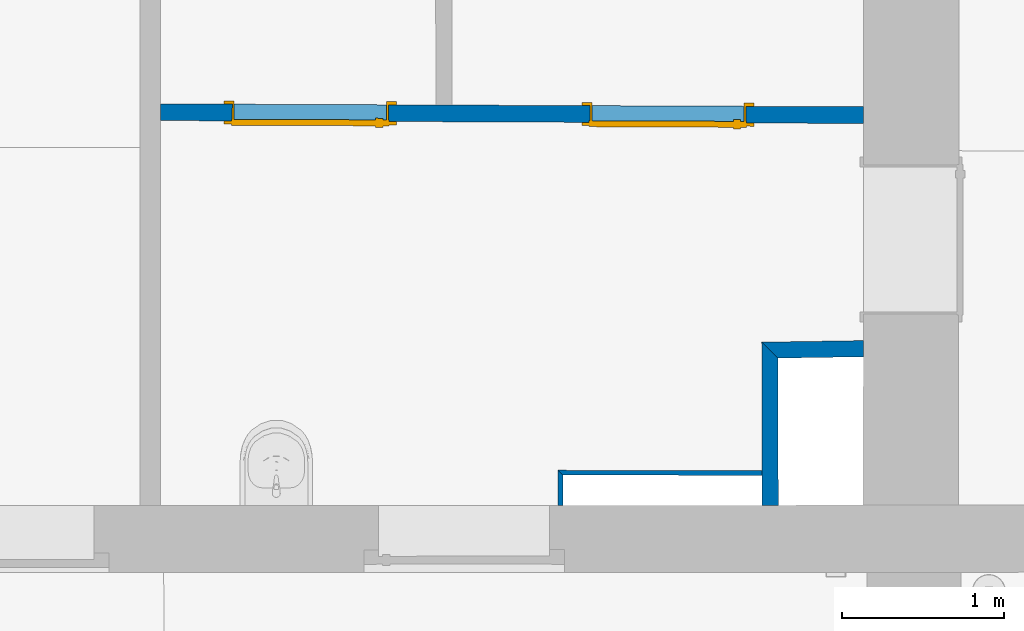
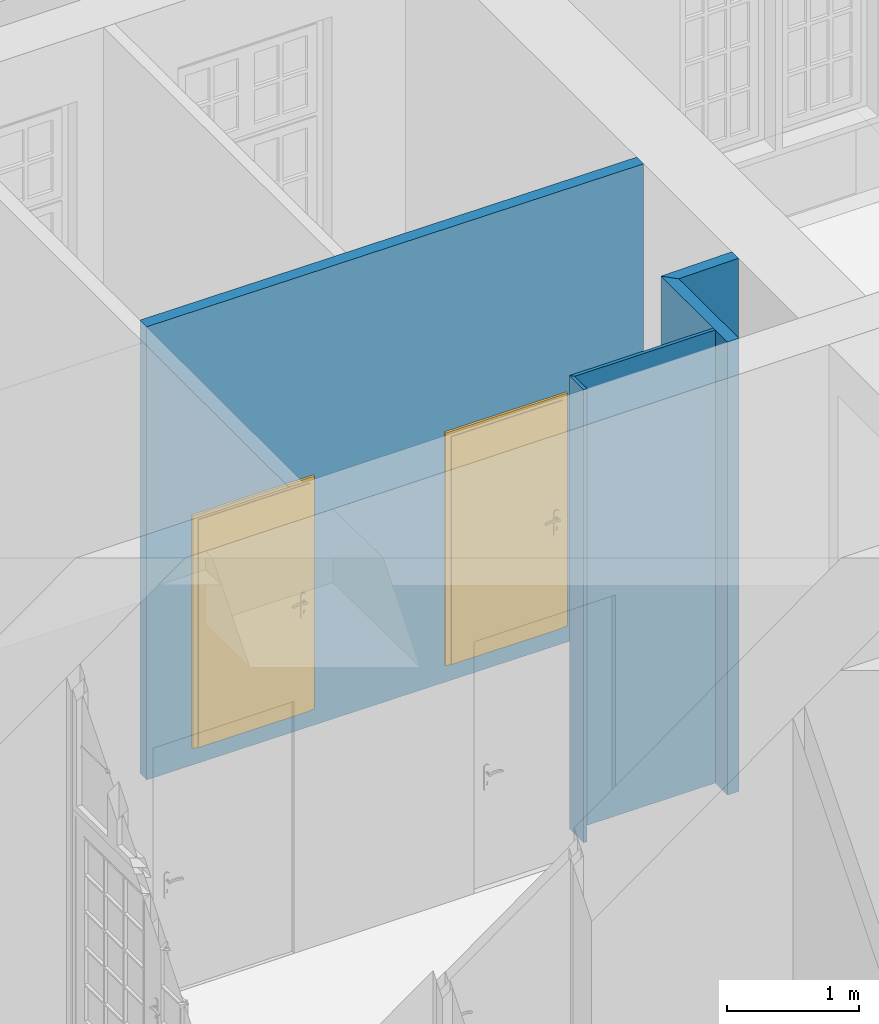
# One storey, part 23 of 90: 5 walls, 2 doors, 2 openings.
"""IFC2X3 building model written with IfcOpenShell, lengths in metres."""

from ifc_helpers import new_model, entity, si_unit, converted_unit, derived_unit, money_unit, direction, frame, origin_with_axes, origin_2d_with_axis, place, context, subcontext, project, spatial, polyline, rectangle, outline, extrude, faceted_brep, source, transform, mapped, material, layer, layer_set, layer_usage, type_object, element, fill, save


model = new_model("IFC2X3")

# Units and contexts
model_context = context("Model", 3, precision=1e-05, world=origin_with_axes(), true_north=direction((0.0, 1.0)))
body_context = subcontext(model_context, "Body", "Model", "MODEL_VIEW")
ifc_project = project(units=[si_unit("LENGTHUNIT", "METRE"), si_unit("AREAUNIT", "SQUARE_METRE"), si_unit("VOLUMEUNIT", "CUBIC_METRE"), converted_unit("PLANEANGLEUNIT", "DEGREE", entity("IfcPlaneAngleMeasure", 0.0174532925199), si_unit("PLANEANGLEUNIT", "RADIAN"), dimensions=[0, 0, 0, 0, 0, 0, 0]), money_unit("EUR"), converted_unit("TIMEUNIT", "Year", entity("IfcTimeMeasure", 31556926.0), si_unit("TIMEUNIT", "SECOND"), dimensions=[0, 0, 1, 0, 0, 0, 0]), si_unit("MASSUNIT", "GRAM", prefix="KILO"), si_unit("THERMODYNAMICTEMPERATUREUNIT", "DEGREE_CELSIUS"), si_unit("LUMINOUSINTENSITYUNIT", "LUMEN"), si_unit("ENERGYUNIT", "JOULE", prefix="MEGA"), derived_unit("THERMALCONDUCTANCEUNIT", [(si_unit("POWERUNIT", "WATT"), 1), (si_unit("LENGTHUNIT", "METRE"), -1), (si_unit("THERMODYNAMICTEMPERATUREUNIT", "KELVIN"), -1)]), derived_unit("SPECIFICHEATCAPACITYUNIT", [(si_unit("ENERGYUNIT", "JOULE"), 1), (si_unit("MASSUNIT", "GRAM", prefix="KILO"), -1), (si_unit("THERMODYNAMICTEMPERATUREUNIT", "KELVIN"), -1)]), derived_unit("MASSDENSITYUNIT", [(si_unit("MASSUNIT", "GRAM", prefix="KILO"), 1), (si_unit("VOLUMEUNIT", "CUBIC_METRE"), -1)])], contexts=[model_context])

# Site, building, storey
site_placement = place(None, origin_with_axes())
site = spatial("IfcSite", under=ifc_project, at=site_placement, Name="Gelände", CompositionType="ELEMENT")
building_placement = place(site_placement, origin_with_axes())
building = spatial("IfcBuilding", under=site, at=building_placement, Name="Gebäude", CompositionType="ELEMENT")
storey_placement = place(building_placement, frame((0.0, 0.0, 3.7), z_axis=(0.0, 0.0, 1.0), x_axis=(1.0, 0.0, 0.0)))
storey = spatial("IfcBuildingStorey", under=building, at=storey_placement, Name="1.OBERGESCHOSS", CompositionType="ELEMENT", Elevation=3.7)

# Walls
ifc_material_1 = material(Name="05_ALLGEMEIN - TRAGENDE BAUTEILE")
ifc_layer_1 = layer(ifc_material_1, 0.1, ventilated="UNKNOWN")
ifc_layer_set_1 = layer_set([ifc_layer_1], Name="05_ALLGEMEIN - TRAGENDE BAUTEILE 0.1")
ifc_layer_usage_1 = layer_usage(ifc_layer_set_1, "AXIS2", "NEGATIVE", 0.1)
wall_type_1 = type_object("IfcWallType", Name="05_ALLGEMEIN - TRAGENDE BAUTEILE 100", PredefinedType="ELEMENTEDWALL")
wall_1_placement = place(storey_placement, frame((3.5553239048, 20.7202840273, -0.1), z_axis=(0.0, 0.0, 1.0), x_axis=(-0.99987302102, -0.0159355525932, 0.0)))
element("IfcWallStandardCase", 1, at=wall_1_placement, inside=storey, type_object=wall_type_1, material=ifc_layer_usage_1, Name="Wand-038", ObjectType="ELEMENTEDWALL", context=body_context, shape_type="SweptSolid", body=[
    extrude(outline(polyline([(0.590081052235, 0.0), (1.21786621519, 0.0), (1.11921150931, 0.1), (0.591738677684, 0.1), (0.590081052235, 0.0)])), origin_with_axes(), (0.0, 0.0, 1.0), 4.2),
])
ifc_layer_usage_2 = layer_usage(ifc_layer_set_1, "AXIS2", "NEGATIVE", 0.0)
wall_2_placement = place(storey_placement, frame((2.34101586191, 19.2782309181, -0.1), z_axis=(0.0, 0.0, 1.0), x_axis=(-0.00239238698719, 0.999997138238, 0.0)))
element("IfcWallStandardCase", 2, at=wall_2_placement, inside=storey, type_object=wall_type_1, material=ifc_layer_usage_2, Name="Wand-038", ObjectType="ELEMENTEDWALL", context=body_context, shape_type="SweptSolid", body=[
    extrude(outline(polyline([(0.414406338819, -0.1), (1.3239951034, -0.1), (1.42264980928, 0.0), (0.414616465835, 0.0), (0.414406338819, -0.1)])), origin_with_axes(), (0.0, 0.0, 1.0), 4.2),
])
ifc_material_2 = material(Name="43_Gipskarton")
ifc_layer_2 = layer(ifc_material_2, 0.03, ventilated="UNKNOWN")
ifc_layer_set_2 = layer_set([ifc_layer_2], Name="43_Gipskarton 0.03")
ifc_layer_usage_3 = layer_usage(ifc_layer_set_2, "AXIS2", "NEGATIVE", 0.03)
wall_type_2 = type_object("IfcWallType", Name="43_Gipskarton 30", PredefinedType="ELEMENTEDWALL")
wall_3_placement = place(storey_placement, frame((2.33950992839, 19.9076981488, -0.1), z_axis=(0.0, 0.0, 1.0), x_axis=(-0.999999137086, 0.00131370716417, 0.0)))
element("IfcWallStandardCase", 3, at=wall_3_placement, inside=storey, type_object=wall_type_2, material=ifc_layer_usage_3, Name="Wand-041", ObjectType="ELEMENTEDWALL", context=body_context, shape_type="SweptSolid", body=[
    extrude(outline(polyline([(0.0, 0.0), (1.26097218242, 0.0), (1.23092399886, 0.03), (-0.000111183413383, 0.03), (0.0, 0.0)])), origin_with_axes(), (0.0, 0.0, 1.0), 4.2),
])
ifc_layer_usage_4 = layer_usage(ifc_layer_set_2, "AXIS2", "NEGATIVE", 0.03)
wall_4_placement = place(storey_placement, frame((1.07853883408, 19.909354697, -0.1), z_axis=(0.0, 0.0, 1.0), x_axis=(0.000291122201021, -0.999999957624, 0.0)))
element("IfcWallStandardCase", 4, at=wall_4_placement, inside=storey, type_object=wall_type_2, material=ifc_layer_usage_4, Name="Wand-042", ObjectType="ELEMENTEDWALL", context=body_context, shape_type="SweptSolid", body=[
    extrude(outline(polyline([(0.0, 0.0), (0.21687573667, 0.0), (0.21687573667, 0.03), (0.030048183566, 0.03), (0.0, 0.0)])), origin_with_axes(), (0.0, 0.0, 1.0), 4.2),
])

# Wall, openings, doors
ifc_layer_3 = layer(ifc_material_2, 0.103444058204, ventilated="UNKNOWN")
ifc_layer_set_3 = layer_set([ifc_layer_3], Name="43_Gipskarton 0.103444")
ifc_layer_usage_5 = layer_usage(ifc_layer_set_3, "AXIS2", "NEGATIVE", 0.103444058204)
wall_type_3 = type_object("IfcWallType", Name="43_Gipskarton 103", PredefinedType="ELEMENTEDWALL")
wall_5_placement = place(storey_placement, frame((-1.37902214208, 22.0709808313, -0.1), z_axis=(0.0, 0.0, 1.0), x_axis=(0.999991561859, -0.00410806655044, 0.0)))
wall_5 = element("IfcWallStandardCase", 5, at=wall_5_placement, inside=storey, type_object=wall_type_3, material=ifc_layer_usage_5, Name="Wand-040", ObjectType="ELEMENTEDWALL", context=body_context, shape_type="SweptSolid", body=[
    extrude(outline(polyline([(0.0, 0.0), (4.34523362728, 0.0), (4.34487471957, 0.103444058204), (-0.00044787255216, 0.103444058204), (0.0, 0.0)])), origin_with_axes(), (0.0, 0.0, 1.0), 4.2),
])
opening_1_placement = place(wall_5_placement, frame((0.925542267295, 0.0, 0.165365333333), z_axis=(0.0, 0.0, 1.0), x_axis=(1.0, 0.0, 0.0)))
opening_1 = element("IfcOpeningElement", 6, at=opening_1_placement, cuts=wall_5, Name="Tür-022", context=body_context, shape_type="SweptSolid", body=[
    extrude(rectangle(XDim=0.965501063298, YDim=2.106896, at=origin_2d_with_axis()), frame((0.0, -0.103444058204, 1.053448), z_axis=(0.0, 1.0, 0.0), x_axis=(-1.0, 0.0, 0.0)), (0.0, 0.0, 1.0), 0.310332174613),
])
opening_2_placement = place(wall_5_placement, frame((3.13668780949, 0.0, 0.165365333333), z_axis=(0.0, 0.0, 1.0), x_axis=(1.0, 0.0, 0.0)))
opening_2 = element("IfcOpeningElement", 7, at=opening_2_placement, cuts=wall_5, Name="Tür-022", context=body_context, shape_type="SweptSolid", body=[
    extrude(rectangle(XDim=0.965501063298, YDim=2.106896, at=origin_2d_with_axis()), frame((0.0, -0.103444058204, 1.053448), z_axis=(0.0, 1.0, 0.0), x_axis=(-1.0, 0.0, 0.0)), (0.0, 0.0, 1.0), 0.310332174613),
])
door_style = type_object("IfcDoorStyle", Name="Blockrahmentür 1-Fl 25", ConstructionType="NOTDEFINED", OperationType="SINGLE_SWING_RIGHT", ParameterTakesPrecedence=False, Sizeable=False)
shared_shape = source(origin_with_axes(), body_context, "Body", "Brep", [
    faceted_brep([(0.482750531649, -0.163444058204, 0.0), (0.482750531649, -0.05, 0.0), (0.482750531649, -0.05, 2.106896), (0.482750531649, -0.163444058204, 2.106896), (0.470750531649, -0.163444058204, 0.0), (0.470750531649, -0.05, 0.0), (0.470750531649, -0.05, 2.094896), (0.1161, -0.05, 2.094896), (0.0001, -0.05, 2.094896), (-0.470750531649, -0.05, 2.094896), (-0.470750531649, -0.05, 0.0), (-0.482750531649, -0.05, 0.0), (-0.482750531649, -0.05, 2.106896), (-0.482750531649, -0.163444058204, 2.106896), (-0.482750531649, -0.163444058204, 0.0), (-0.470750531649, -0.163444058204, 0.0), (-0.470750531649, -0.163444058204, 2.094896), (0.0001, -0.163444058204, 2.094896), (0.1161, -0.163444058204, 2.094896), (0.470750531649, -0.163444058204, 2.094896)], [[[0, 1, 2, 3]], [[4, 5, 1, 0]], [[1, 5, 6, 7, 8, 9, 10, 11, 12, 2]], [[3, 2, 12, 13]], [[0, 3, 13, 14, 15, 16, 17, 18, 19, 4]], [[19, 6, 5, 4]], [[18, 7, 6, 19]], [[17, 8, 7, 18]], [[16, 9, 8, 17]], [[15, 10, 9, 16]], [[14, 11, 10, 15]], [[13, 12, 11, 14]]]),
    faceted_brep([(0.482750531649, -0.05, 0.0), (0.482750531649, -0.02, 0.0), (0.486750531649, -0.02, 0.0), (0.486750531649, -0.05, 0.0), (0.482750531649, -0.05, 2.106896), (0.482750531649, -0.02, 2.106896), (-0.482750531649, -0.02, 2.106896), (-0.482750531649, -0.02, 0.0), (-0.486750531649, -0.02, 0.0), (-0.486750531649, -0.02, 2.110896), (0.0161, -0.02, 2.110896), (0.1001, -0.02, 2.110896), (0.486750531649, -0.02, 2.110896), (0.486750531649, -0.05, 2.110896), (0.1001, -0.05, 2.110896), (0.0161, -0.05, 2.110896), (-0.486750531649, -0.05, 2.110896), (-0.486750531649, -0.05, 0.0), (-0.482750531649, -0.05, 0.0), (-0.482750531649, -0.05, 2.106896)], [[[0, 1, 2, 3]], [[4, 5, 1, 0]], [[1, 5, 6, 7, 8, 9, 10, 11, 12, 2]], [[3, 2, 12, 13]], [[0, 3, 13, 14, 15, 16, 17, 18, 19, 4]], [[19, 6, 5, 4]], [[18, 7, 6, 19]], [[17, 8, 7, 18]], [[16, 9, 8, 17]], [[15, 10, 9, 16]], [[14, 11, 10, 15]], [[13, 12, 11, 14]]]),
    faceted_brep([(0.532750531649, -0.163444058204, 0.0), (0.532750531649, -0.143444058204, 0.0), (0.532750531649, -0.143444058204, 2.156896), (0.532750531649, -0.163444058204, 2.156896), (0.482750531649, -0.163444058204, 0.0), (0.482750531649, -0.143444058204, 0.0), (0.482750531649, -0.143444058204, 2.106896), (-0.482750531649, -0.143444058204, 2.106896), (-0.482750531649, -0.143444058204, 0.0), (-0.532750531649, -0.143444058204, 0.0), (-0.532750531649, -0.143444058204, 2.156896), (-0.532750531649, -0.163444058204, 2.156896), (-0.532750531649, -0.163444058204, 0.0), (-0.482750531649, -0.163444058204, 0.0), (-0.482750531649, -0.163444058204, 2.106896), (0.482750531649, -0.163444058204, 2.106896)], [[[0, 1, 2, 3]], [[4, 5, 1, 0]], [[1, 5, 6, 7, 8, 9, 10, 2]], [[3, 2, 10, 11]], [[0, 3, 11, 12, 13, 14, 15, 4]], [[15, 6, 5, 4]], [[14, 7, 6, 15]], [[13, 8, 7, 14]], [[12, 9, 8, 13]], [[11, 10, 9, 12]]]),
    faceted_brep([(0.532750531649, -0.04, 0.0), (0.532750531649, -0.02, 0.0), (0.532750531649, -0.02, 2.156896), (0.532750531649, -0.04, 2.156896), (0.482750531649, -0.04, 0.0), (0.482750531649, -0.02, 0.0), (0.482750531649, -0.02, 2.106896), (-0.482750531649, -0.02, 2.106896), (-0.482750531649, -0.02, 0.0), (-0.532750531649, -0.02, 0.0), (-0.532750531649, -0.02, 2.156896), (-0.532750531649, -0.04, 2.156896), (-0.532750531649, -0.04, 0.0), (-0.482750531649, -0.04, 0.0), (-0.482750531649, -0.04, 2.106896), (0.482750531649, -0.04, 2.106896)], [[[0, 1, 2, 3]], [[4, 5, 1, 0]], [[1, 5, 6, 7, 8, 9, 10, 2]], [[3, 2, 10, 11]], [[0, 3, 11, 12, 13, 14, 15, 4]], [[15, 6, 5, 4]], [[14, 7, 6, 15]], [[13, 8, 7, 14]], [[12, 9, 8, 13]], [[11, 10, 9, 12]]]),
    faceted_brep([(0.486750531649, -0.013, 0.0), (-0.486750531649, -0.013, 0.0), (-0.486750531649, -0.013, 2.110896), (0.486750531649, -0.013, 2.110896), (0.486750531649, -0.05, 0.0), (-0.486750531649, -0.05, 0.0), (-0.486750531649, -0.05, 2.110896), (0.486750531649, -0.05, 2.110896)], [[[0, 1, 2, 3]], [[1, 0, 4, 5]], [[2, 1, 5, 6]], [[3, 2, 6, 7]], [[0, 3, 7, 4]], [[5, 4, 7, 6]]]),
    faceted_brep([(-0.431452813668, -0.09, 1.05647213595), (-0.426750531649, -0.09, 1.058), (-0.426750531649, -0.07, 1.058), (-0.431452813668, -0.07, 1.05647213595), (-0.43435898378, -0.09, 1.05247213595), (-0.43435898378, -0.09, 1.04752786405), (-0.431452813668, -0.09, 1.04352786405), (-0.426750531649, -0.09, 1.042), (-0.422048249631, -0.09, 1.04352786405), (-0.419142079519, -0.09, 1.04752786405), (-0.419142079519, -0.09, 1.05247213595), (-0.422048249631, -0.09, 1.05647213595), (-0.422048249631, -0.07, 1.05647213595), (-0.426750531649, -0.068, 1.06), (-0.432628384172, -0.068, 1.05809016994), (-0.43435898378, -0.07, 1.05247213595), (-0.43435898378, -0.07, 1.04752786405), (-0.431452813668, -0.07, 1.04352786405), (-0.426750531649, -0.07, 1.042), (-0.422048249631, -0.07, 1.04352786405), (-0.419142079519, -0.07, 1.04752786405), (-0.419142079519, -0.07, 1.05247213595), (-0.420872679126, -0.068, 1.05809016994), (-0.426750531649, -0.06, 1.06), (-0.432628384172, -0.06, 1.05809016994), (-0.436261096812, -0.068, 1.05309016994), (-0.436261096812, -0.068, 1.04690983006), (-0.432628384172, -0.068, 1.04190983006), (-0.426750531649, -0.068, 1.04), (-0.420872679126, -0.068, 1.04190983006), (-0.417239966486, -0.068, 1.04690983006), (-0.417239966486, -0.068, 1.05309016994), (-0.420872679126, -0.06, 1.05809016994), (-0.417239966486, -0.06, 1.05309016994), (-0.417239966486, -0.06, 1.04690983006), (-0.420872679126, -0.06, 1.04190983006), (-0.426750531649, -0.06, 1.04), (-0.432628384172, -0.06, 1.04190983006), (-0.436261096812, -0.06, 1.04690983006), (-0.436261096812, -0.06, 1.05309016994)], [[[0, 1, 2, 3]], [[1, 0, 4, 5, 6, 7, 8, 9, 10, 11]], [[1, 11, 12, 2]], [[3, 2, 13, 14]], [[4, 0, 3, 15]], [[5, 4, 15, 16]], [[6, 5, 16, 17]], [[7, 6, 17, 18]], [[8, 7, 18, 19]], [[9, 8, 19, 20]], [[10, 9, 20, 21]], [[11, 10, 21, 12]], [[2, 12, 22, 13]], [[14, 13, 23, 24]], [[15, 3, 14, 25]], [[16, 15, 25, 26]], [[17, 16, 26, 27]], [[18, 17, 27, 28]], [[19, 18, 28, 29]], [[20, 19, 29, 30]], [[21, 20, 30, 31]], [[12, 21, 31, 22]], [[13, 22, 32, 23]], [[23, 32, 33, 34, 35, 36, 37, 38, 39, 24]], [[25, 14, 24, 39]], [[26, 25, 39, 38]], [[27, 26, 38, 37]], [[28, 27, 37, 36]], [[29, 28, 36, 35]], [[30, 29, 35, 34]], [[31, 30, 34, 33]], [[22, 31, 33, 32]]]),
    faceted_brep([(-0.414562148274, -0.06, 1.11759695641), (-0.422306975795, -0.06, 1.12195567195), (-0.431194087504, -0.06, 1.12195567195), (-0.438938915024, -0.06, 1.11759695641), (-0.443550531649, -0.06, 1.11), (-0.449250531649, -0.06, 1.11), (-0.449250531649, -0.06, 0.89), (-0.443550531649, -0.06, 0.89), (-0.438938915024, -0.06, 0.882403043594), (-0.431194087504, -0.06, 0.878044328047), (-0.422306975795, -0.06, 0.878044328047), (-0.414562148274, -0.06, 0.882403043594), (-0.409950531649, -0.06, 0.89), (-0.404250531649, -0.06, 0.89), (-0.404250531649, -0.06, 1.11), (-0.409950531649, -0.06, 1.11), (-0.426750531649, -0.06, 0.967425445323), (-0.421375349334, -0.06, 0.965143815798), (-0.419282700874, -0.06, 0.959692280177), (-0.421750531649, -0.06, 0.9544), (-0.421750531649, -0.06, 0.9375), (-0.423214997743, -0.06, 0.933964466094), (-0.426750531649, -0.06, 0.9325), (-0.430286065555, -0.06, 0.933964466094), (-0.431750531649, -0.06, 0.9375), (-0.431750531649, -0.06, 0.9544), (-0.434218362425, -0.06, 0.959692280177), (-0.432125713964, -0.06, 0.965143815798), (-0.414562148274, -0.05, 1.11759695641), (-0.422306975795, -0.05, 1.12195567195), (-0.431194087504, -0.05, 1.12195567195), (-0.438938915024, -0.05, 1.11759695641), (-0.443550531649, -0.05, 1.11), (-0.449250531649, -0.05, 1.11), (-0.449250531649, -0.05, 0.89), (-0.443550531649, -0.05, 0.89), (-0.438938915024, -0.05, 0.882403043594), (-0.431194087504, -0.05, 0.878044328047), (-0.422306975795, -0.05, 0.878044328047), (-0.414562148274, -0.05, 0.882403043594), (-0.409950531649, -0.05, 0.89), (-0.404250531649, -0.05, 0.89), (-0.404250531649, -0.05, 1.11), (-0.409950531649, -0.05, 1.11), (-0.426750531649, -0.05, 0.967425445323), (-0.421375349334, -0.05, 0.965143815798), (-0.419282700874, -0.05, 0.959692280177), (-0.421750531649, -0.05, 0.9544), (-0.421750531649, -0.05, 0.9375), (-0.423214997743, -0.05, 0.933964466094), (-0.426750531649, -0.05, 0.9325), (-0.430286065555, -0.05, 0.933964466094), (-0.431750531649, -0.05, 0.9375), (-0.431750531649, -0.05, 0.9544), (-0.434218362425, -0.05, 0.959692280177), (-0.432125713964, -0.05, 0.965143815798)], [[[0, 1, 2, 3, 4, 5, 6, 7, 8, 9, 10, 11, 12, 13, 14, 15], [16, 17, 18, 19, 20, 21, 22, 23, 24, 25, 26, 27]], [[1, 0, 28, 29]], [[2, 1, 29, 30]], [[3, 2, 30, 31]], [[4, 3, 31, 32]], [[5, 4, 32, 33]], [[6, 5, 33, 34]], [[7, 6, 34, 35]], [[8, 7, 35, 36]], [[9, 8, 36, 37]], [[10, 9, 37, 38]], [[11, 10, 38, 39]], [[12, 11, 39, 40]], [[13, 12, 40, 41]], [[14, 13, 41, 42]], [[15, 14, 42, 43]], [[0, 15, 43, 28]], [[17, 16, 44, 45]], [[18, 17, 45, 46]], [[19, 18, 46, 47]], [[19, 47, 48, 20]], [[20, 48, 49, 21]], [[21, 49, 50, 22]], [[22, 50, 51, 23]], [[23, 51, 52, 24]], [[53, 25, 24, 52]], [[26, 25, 53, 54]], [[27, 26, 54, 55]], [[16, 27, 55, 44]], [[40, 39, 38, 37, 36, 35, 34, 33, 32, 31, 30, 29, 28, 43, 42, 41], [54, 53, 52, 51, 50, 49, 48, 47, 46, 45, 44, 55]]]),
    faceted_brep([(-0.312497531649, -0.09, 1.057158), (-0.312497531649, -0.105, 1.057158), (-0.312496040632, -0.105, 1.05719388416), (-0.312496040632, -0.09, 1.05719388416), (-0.33952516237, -0.09, 1.06432652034), (-0.33952516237, -0.105, 1.06432652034), (-0.367353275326, -0.105, 1.06706086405), (-0.395259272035, -0.105, 1.06529002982), (-0.422518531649, -0.105, 1.05906), (-0.428921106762, -0.105, 1.05976125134), (-0.434423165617, -0.105, 1.05641280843), (-0.43674204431, -0.105, 1.05040385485), (-0.434915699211, -0.105, 1.04422735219), (-0.429701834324, -0.105, 1.04044577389), (-0.423263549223, -0.105, 1.04062800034), (-0.418271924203, -0.105, 1.04469843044), (-0.418292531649, -0.105, 1.044666), (-0.393003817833, -0.105, 1.05019878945), (-0.367161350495, -0.105, 1.05171460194), (-0.341399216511, -0.105, 1.04917624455), (-0.316349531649, -0.105, 1.042646), (-0.310806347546, -0.105, 1.04356849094), (-0.307444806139, -0.105, 1.04807159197), (-0.308136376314, -0.105, 1.05364829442), (-0.308136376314, -0.09, 1.05364829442), (-0.307444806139, -0.09, 1.04807159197), (-0.310806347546, -0.09, 1.04356849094), (-0.316349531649, -0.09, 1.042646), (-0.341399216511, -0.09, 1.04917624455), (-0.367161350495, -0.09, 1.05171460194), (-0.393003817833, -0.09, 1.05019878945), (-0.418292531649, -0.09, 1.044666), (-0.418271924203, -0.09, 1.04469843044), (-0.423263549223, -0.09, 1.04062800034), (-0.429701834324, -0.09, 1.04044577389), (-0.434915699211, -0.09, 1.04422735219), (-0.43674204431, -0.09, 1.05040385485), (-0.434423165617, -0.09, 1.05641280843), (-0.428921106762, -0.09, 1.05976125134), (-0.422518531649, -0.09, 1.05906), (-0.395259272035, -0.09, 1.06529002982), (-0.367353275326, -0.09, 1.06706086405)], [[[0, 1, 2, 3]], [[4, 5, 1, 0]], [[1, 5, 6, 7, 8, 9, 10, 11, 12, 13, 14, 15, 16, 17, 18, 19, 20, 21, 22, 23, 2]], [[3, 2, 23, 24]], [[0, 3, 24, 25, 26, 27, 28, 29, 30, 31, 32, 33, 34, 35, 36, 37, 38, 39, 40, 41, 4]], [[41, 6, 5, 4]], [[40, 7, 6, 41]], [[39, 8, 7, 40]], [[38, 9, 8, 39]], [[37, 10, 9, 38]], [[36, 11, 10, 37]], [[35, 12, 11, 36]], [[34, 13, 12, 35]], [[33, 14, 13, 34]], [[32, 15, 14, 33]], [[31, 16, 15, 32]], [[30, 17, 16, 31]], [[29, 18, 17, 30]], [[28, 19, 18, 29]], [[27, 20, 19, 28]], [[26, 21, 20, 27]], [[25, 22, 21, 26]], [[24, 23, 22, 25]]]),
    faceted_brep([(-0.431452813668, 0.027, 1.05647213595), (-0.431452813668, 0.007, 1.05647213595), (-0.426750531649, 0.007, 1.058), (-0.426750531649, 0.027, 1.058), (-0.43435898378, 0.027, 1.05247213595), (-0.43435898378, 0.007, 1.05247213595), (-0.432628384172, 0.005, 1.05809016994), (-0.426750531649, 0.005, 1.06), (-0.422048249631, 0.007, 1.05647213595), (-0.422048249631, 0.027, 1.05647213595), (-0.419142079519, 0.027, 1.05247213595), (-0.419142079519, 0.027, 1.04752786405), (-0.422048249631, 0.027, 1.04352786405), (-0.426750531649, 0.027, 1.042), (-0.431452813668, 0.027, 1.04352786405), (-0.43435898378, 0.027, 1.04752786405), (-0.43435898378, 0.007, 1.04752786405), (-0.436261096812, 0.005, 1.05309016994), (-0.432628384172, -0.003, 1.05809016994), (-0.426750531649, -0.003, 1.06), (-0.420872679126, 0.005, 1.05809016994), (-0.419142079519, 0.007, 1.05247213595), (-0.419142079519, 0.007, 1.04752786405), (-0.422048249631, 0.007, 1.04352786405), (-0.426750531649, 0.007, 1.042), (-0.431452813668, 0.007, 1.04352786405), (-0.436261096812, 0.005, 1.04690983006), (-0.436261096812, -0.003, 1.05309016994), (-0.436261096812, -0.003, 1.04690983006), (-0.432628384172, -0.003, 1.04190983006), (-0.426750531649, -0.003, 1.04), (-0.420872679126, -0.003, 1.04190983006), (-0.417239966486, -0.003, 1.04690983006), (-0.417239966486, -0.003, 1.05309016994), (-0.420872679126, -0.003, 1.05809016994), (-0.417239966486, 0.005, 1.05309016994), (-0.417239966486, 0.005, 1.04690983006), (-0.420872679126, 0.005, 1.04190983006), (-0.426750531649, 0.005, 1.04), (-0.432628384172, 0.005, 1.04190983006)], [[[0, 1, 2, 3]], [[4, 5, 1, 0]], [[1, 6, 7, 2]], [[3, 2, 8, 9]], [[3, 9, 10, 11, 12, 13, 14, 15, 4, 0]], [[15, 16, 5, 4]], [[5, 17, 6, 1]], [[6, 18, 19, 7]], [[2, 7, 20, 8]], [[9, 8, 21, 10]], [[10, 21, 22, 11]], [[11, 22, 23, 12]], [[12, 23, 24, 13]], [[13, 24, 25, 14]], [[14, 25, 16, 15]], [[16, 26, 17, 5]], [[17, 27, 18, 6]], [[19, 18, 27, 28, 29, 30, 31, 32, 33, 34]], [[7, 19, 34, 20]], [[8, 20, 35, 21]], [[21, 35, 36, 22]], [[22, 36, 37, 23]], [[23, 37, 38, 24]], [[24, 38, 39, 25]], [[25, 39, 26, 16]], [[26, 28, 27, 17]], [[39, 29, 28, 26]], [[38, 30, 29, 39]], [[37, 31, 30, 38]], [[36, 32, 31, 37]], [[35, 33, 32, 36]], [[20, 34, 33, 35]]]),
    faceted_brep([(-0.414562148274, -0.013, 1.11759695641), (-0.422306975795, -0.013, 1.12195567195), (-0.431194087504, -0.013, 1.12195567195), (-0.438938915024, -0.013, 1.11759695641), (-0.443550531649, -0.013, 1.11), (-0.449250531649, -0.013, 1.11), (-0.449250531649, -0.013, 0.89), (-0.443550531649, -0.013, 0.89), (-0.438938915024, -0.013, 0.882403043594), (-0.431194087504, -0.013, 0.878044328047), (-0.422306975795, -0.013, 0.878044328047), (-0.414562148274, -0.013, 0.882403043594), (-0.409950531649, -0.013, 0.89), (-0.404250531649, -0.013, 0.89), (-0.404250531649, -0.013, 1.11), (-0.409950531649, -0.013, 1.11), (-0.426750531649, -0.013, 0.967425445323), (-0.421375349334, -0.013, 0.965143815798), (-0.419282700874, -0.013, 0.959692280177), (-0.421750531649, -0.013, 0.9544), (-0.421750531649, -0.013, 0.9375), (-0.423214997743, -0.013, 0.933964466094), (-0.426750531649, -0.013, 0.9325), (-0.430286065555, -0.013, 0.933964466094), (-0.431750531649, -0.013, 0.9375), (-0.431750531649, -0.013, 0.9544), (-0.434218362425, -0.013, 0.959692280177), (-0.432125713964, -0.013, 0.965143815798), (-0.422306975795, -0.003, 1.12195567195), (-0.414562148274, -0.003, 1.11759695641), (-0.431194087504, -0.003, 1.12195567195), (-0.438938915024, -0.003, 1.11759695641), (-0.443550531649, -0.003, 1.11), (-0.449250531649, -0.003, 1.11), (-0.449250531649, -0.003, 0.89), (-0.443550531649, -0.003, 0.89), (-0.438938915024, -0.003, 0.882403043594), (-0.431194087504, -0.003, 0.878044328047), (-0.422306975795, -0.003, 0.878044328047), (-0.414562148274, -0.003, 0.882403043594), (-0.409950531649, -0.003, 0.89), (-0.404250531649, -0.003, 0.89), (-0.404250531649, -0.003, 1.11), (-0.409950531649, -0.003, 1.11), (-0.426750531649, -0.003, 0.967425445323), (-0.421375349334, -0.003, 0.965143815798), (-0.419282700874, -0.003, 0.959692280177), (-0.421750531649, -0.003, 0.9544), (-0.421750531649, -0.003, 0.9375), (-0.423214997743, -0.003, 0.933964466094), (-0.426750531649, -0.003, 0.9325), (-0.430286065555, -0.003, 0.933964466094), (-0.431750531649, -0.003, 0.9375), (-0.431750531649, -0.003, 0.9544), (-0.434218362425, -0.003, 0.959692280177), (-0.432125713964, -0.003, 0.965143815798)], [[[0, 1, 2, 3, 4, 5, 6, 7, 8, 9, 10, 11, 12, 13, 14, 15], [16, 17, 18, 19, 20, 21, 22, 23, 24, 25, 26, 27]], [[28, 1, 0, 29]], [[30, 2, 1, 28]], [[31, 3, 2, 30]], [[32, 4, 3, 31]], [[33, 5, 4, 32]], [[34, 6, 5, 33]], [[35, 7, 6, 34]], [[36, 8, 7, 35]], [[37, 9, 8, 36]], [[38, 10, 9, 37]], [[39, 11, 10, 38]], [[40, 12, 11, 39]], [[41, 13, 12, 40]], [[42, 14, 13, 41]], [[43, 15, 14, 42]], [[29, 0, 15, 43]], [[17, 16, 44, 45]], [[18, 17, 45, 46]], [[19, 18, 46, 47]], [[19, 47, 48, 20]], [[20, 48, 49, 21]], [[21, 49, 50, 22]], [[22, 50, 51, 23]], [[23, 51, 52, 24]], [[53, 25, 24, 52]], [[26, 25, 53, 54]], [[27, 26, 54, 55]], [[16, 27, 55, 44]], [[40, 39, 38, 37, 36, 35, 34, 33, 32, 31, 30, 28, 29, 43, 42, 41], [54, 53, 52, 51, 50, 49, 48, 47, 46, 45, 44, 55]]]),
    faceted_brep([(-0.312497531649, 0.027, 1.057158), (-0.312496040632, 0.027, 1.05719388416), (-0.312496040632, 0.042, 1.05719388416), (-0.312497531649, 0.042, 1.057158), (-0.33952516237, 0.027, 1.06432652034), (-0.367353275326, 0.027, 1.06706086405), (-0.395259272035, 0.027, 1.06529002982), (-0.422518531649, 0.027, 1.05906), (-0.428921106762, 0.027, 1.05976125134), (-0.434423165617, 0.027, 1.05641280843), (-0.43674204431, 0.027, 1.05040385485), (-0.434915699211, 0.027, 1.04422735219), (-0.429701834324, 0.027, 1.04044577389), (-0.423263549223, 0.027, 1.04062800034), (-0.418271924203, 0.027, 1.04469843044), (-0.418292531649, 0.027, 1.044666), (-0.393003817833, 0.027, 1.05019878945), (-0.367161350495, 0.027, 1.05171460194), (-0.341399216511, 0.027, 1.04917624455), (-0.316349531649, 0.027, 1.042646), (-0.310806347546, 0.027, 1.04356849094), (-0.307444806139, 0.027, 1.04807159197), (-0.308136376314, 0.027, 1.05364829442), (-0.308136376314, 0.042, 1.05364829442), (-0.307444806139, 0.042, 1.04807159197), (-0.310806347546, 0.042, 1.04356849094), (-0.316349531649, 0.042, 1.042646), (-0.341399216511, 0.042, 1.04917624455), (-0.367161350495, 0.042, 1.05171460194), (-0.393003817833, 0.042, 1.05019878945), (-0.418292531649, 0.042, 1.044666), (-0.418271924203, 0.042, 1.04469843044), (-0.423263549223, 0.042, 1.04062800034), (-0.429701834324, 0.042, 1.04044577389), (-0.434915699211, 0.042, 1.04422735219), (-0.43674204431, 0.042, 1.05040385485), (-0.434423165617, 0.042, 1.05641280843), (-0.428921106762, 0.042, 1.05976125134), (-0.422518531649, 0.042, 1.05906), (-0.395259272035, 0.042, 1.06529002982), (-0.367353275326, 0.042, 1.06706086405), (-0.33952516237, 0.042, 1.06432652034)], [[[0, 1, 2, 3]], [[0, 4, 5, 6, 7, 8, 9, 10, 11, 12, 13, 14, 15, 16, 17, 18, 19, 20, 21, 22, 1]], [[1, 22, 23, 2]], [[3, 2, 23, 24, 25, 26, 27, 28, 29, 30, 31, 32, 33, 34, 35, 36, 37, 38, 39, 40, 41]], [[4, 0, 3, 41]], [[5, 4, 41, 40]], [[6, 5, 40, 39]], [[7, 6, 39, 38]], [[8, 7, 38, 37]], [[9, 8, 37, 36]], [[10, 9, 36, 35]], [[11, 10, 35, 34]], [[12, 11, 34, 33]], [[13, 12, 33, 32]], [[14, 13, 32, 31]], [[15, 14, 31, 30]], [[16, 15, 30, 29]], [[17, 16, 29, 28]], [[18, 17, 28, 27]], [[19, 18, 27, 26]], [[20, 19, 26, 25]], [[21, 20, 25, 24]], [[22, 21, 24, 23]]]),
])
door_1_placement = place(opening_1_placement, frame((0.470750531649, 0.0, 0.0), z_axis=(0.0, 0.0, 1.0), x_axis=(-1.0, 0.0, 0.0)))
door_1 = element("IfcDoor", 8, at=door_1_placement, inside=storey, type_object=door_style, Name="Tür-022", ObjectType="NOTDEFINED", OverallHeight=2.1069, OverallWidth=0.965501, context=body_context, shape_type="MappedRepresentation", body=[
    mapped(shared_shape, transform((0.470750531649, 0.04, 0.0))),
])
fill(opening_1, door_1)
door_2_placement = place(opening_2_placement, frame((0.470750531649, 0.0, 0.0), z_axis=(0.0, 0.0, 1.0), x_axis=(-1.0, 0.0, 0.0)))
door_2 = element("IfcDoor", 9, at=door_2_placement, inside=storey, type_object=door_style, Name="Tür-022", ObjectType="NOTDEFINED", OverallHeight=2.1069, OverallWidth=0.965501, context=body_context, shape_type="MappedRepresentation", body=[
    mapped(shared_shape, transform((0.470750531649, 0.04, 0.0))),
])
fill(opening_2, door_2)

save(model, "model.ifc")
